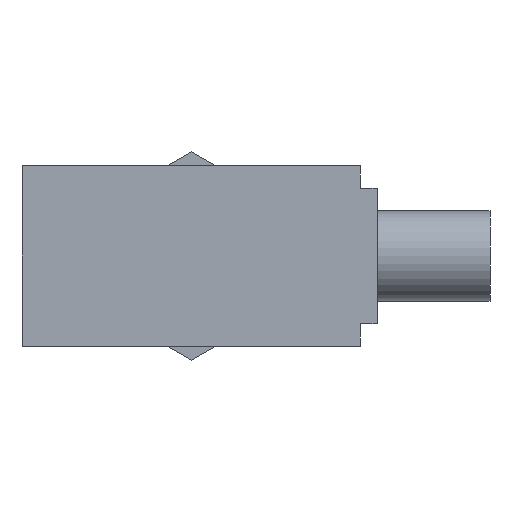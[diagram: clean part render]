
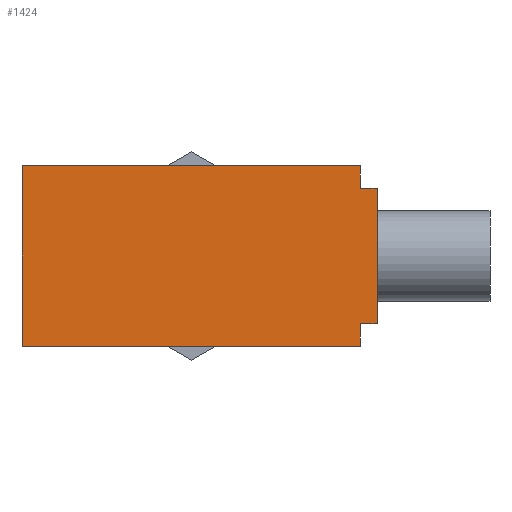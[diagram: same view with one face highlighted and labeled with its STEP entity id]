
A CAD part, front view. The second image highlights one B-rep face of the part: STEP entity #1424.
In plain terms, the highlighted planar face has unit normal (0, -1, 0).
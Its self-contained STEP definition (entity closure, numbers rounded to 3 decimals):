
#373=CARTESIAN_POINT('',(16.5,0.,-6.));
#374=VERTEX_POINT('',#373);
#383=CARTESIAN_POINT('',(15.,0.,-6.));
#384=VERTEX_POINT('',#383);
#385=CARTESIAN_POINT('',(15.,0.,-6.));
#386=DIRECTION('',(1.0,0.0,0.0));
#387=VECTOR('',#386,1.5);
#388=LINE('',#385,#387);
#389=EDGE_CURVE('',#384,#374,#388,.T.);
#444=CARTESIAN_POINT('',(16.5,0.,6.));
#445=VERTEX_POINT('',#444);
#452=CARTESIAN_POINT('',(16.5,0.,-6.));
#453=DIRECTION('',(0.0,0.0,1.0));
#454=VECTOR('',#453,12.);
#455=LINE('',#452,#454);
#456=EDGE_CURVE('',#374,#445,#455,.T.);
#471=CARTESIAN_POINT('',(15.,0.,6.));
#472=VERTEX_POINT('',#471);
#479=CARTESIAN_POINT('',(16.5,0.,6.));
#480=DIRECTION('',(-1.0,0.0,0.0));
#481=VECTOR('',#480,1.5);
#482=LINE('',#479,#481);
#483=EDGE_CURVE('',#445,#472,#482,.T.);
#498=CARTESIAN_POINT('',(15.,0.,-8.0));
#499=VERTEX_POINT('',#498);
#500=CARTESIAN_POINT('',(15.,0.,-8.0));
#501=DIRECTION('',(0.0,0.0,1.0));
#502=VECTOR('',#501,2.);
#503=LINE('',#500,#502);
#504=EDGE_CURVE('',#499,#384,#503,.T.);
#545=CARTESIAN_POINT('',(15.,0.,8.0));
#546=VERTEX_POINT('',#545);
#553=CARTESIAN_POINT('',(15.,0.,6.));
#554=DIRECTION('',(0.0,0.0,1.0));
#555=VECTOR('',#554,2.);
#556=LINE('',#553,#555);
#557=EDGE_CURVE('',#472,#546,#556,.T.);
#957=CARTESIAN_POINT('',(-15.,0.,-8.0));
#958=VERTEX_POINT('',#957);
#959=CARTESIAN_POINT('',(-15.,0.,-8.0));
#960=DIRECTION('',(1.0,0.0,0.0));
#961=VECTOR('',#960,30.);
#962=LINE('',#959,#961);
#963=EDGE_CURVE('',#958,#499,#962,.T.);
#1211=CARTESIAN_POINT('',(-15.,0.,8.0));
#1212=VERTEX_POINT('',#1211);
#1219=CARTESIAN_POINT('',(15.,0.,8.0));
#1220=DIRECTION('',(-1.0,0.0,0.0));
#1221=VECTOR('',#1220,30.);
#1222=LINE('',#1219,#1221);
#1223=EDGE_CURVE('',#546,#1212,#1222,.T.);
#1264=CARTESIAN_POINT('',(-15.,0.,8.0));
#1265=DIRECTION('',(0.0,0.0,-1.0));
#1266=VECTOR('',#1265,16.0);
#1267=LINE('',#1264,#1266);
#1268=EDGE_CURVE('',#1212,#958,#1267,.T.);
#1409=CARTESIAN_POINT('',(0.0,0.0,0.0));
#1410=DIRECTION('',(0.0,-1.0,0.0));
#1411=DIRECTION('',(0.0,0.0,-1.0));
#1412=AXIS2_PLACEMENT_3D('',#1409,#1410,#1411);
#1413=PLANE('',#1412);
#1414=ORIENTED_EDGE('',*,*,#1268,.T.);
#1415=ORIENTED_EDGE('',*,*,#963,.T.);
#1416=ORIENTED_EDGE('',*,*,#504,.T.);
#1417=ORIENTED_EDGE('',*,*,#389,.T.);
#1418=ORIENTED_EDGE('',*,*,#456,.T.);
#1419=ORIENTED_EDGE('',*,*,#483,.T.);
#1420=ORIENTED_EDGE('',*,*,#557,.T.);
#1421=ORIENTED_EDGE('',*,*,#1223,.T.);
#1422=EDGE_LOOP('',(#1414,#1415,#1416,#1417,#1418,#1419,#1420,#1421));
#1423=FACE_OUTER_BOUND('',#1422,.T.);
#1424=ADVANCED_FACE('',(#1423),#1413,.T.);
